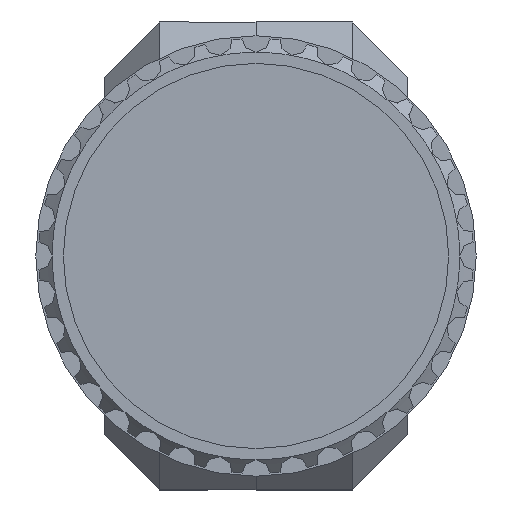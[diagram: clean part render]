
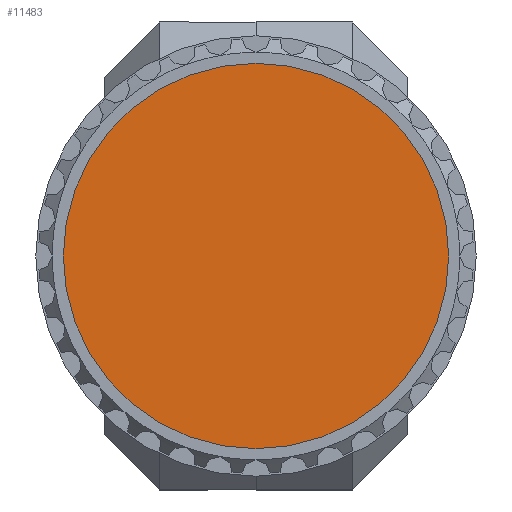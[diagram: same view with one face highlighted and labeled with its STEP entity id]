
A CAD part, front view. The second image highlights one B-rep face of the part: STEP entity #11483.
In plain terms, the highlighted planar face has unit normal (0, -1, 0) as drawn and (0, 0, 1) by its records, which use the part's own axes.
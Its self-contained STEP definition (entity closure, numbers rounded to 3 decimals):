
#1398 = DIRECTION ( 'NONE',  ( 0., 1., 0. ) ) ;
#2014 = EDGE_LOOP ( 'NONE', ( #3104 ) ) ;
#2713 = EDGE_CURVE ( 'NONE', #6189, #6189, #8683, .T. ) ;
#3104 = ORIENTED_EDGE ( 'NONE', *, *, #2713, .F. ) ;
#3863 = DIRECTION ( 'NONE',  ( 0., -1., 0. ) ) ;
#4605 = AXIS2_PLACEMENT_3D ( 'NONE', #11187, #9894, #1398 ) ;
#5185 = AXIS2_PLACEMENT_3D ( 'NONE', #13450, #11385, #3863 ) ;
#6189 = VERTEX_POINT ( 'NONE', #10583 ) ;
#6996 = FACE_OUTER_BOUND ( 'NONE', #2014, .T. ) ;
#8003 = PLANE ( 'NONE',  #5185 ) ;
#8683 = CIRCLE ( 'NONE', #4605, 7. ) ;
#9894 = DIRECTION ( 'NONE',  ( 0., 0., -1. ) ) ;
#10583 = CARTESIAN_POINT ( 'NONE',  ( 0., 7., 5.8 ) ) ;
#11187 = CARTESIAN_POINT ( 'NONE',  ( 0., 0., 5.8 ) ) ;
#11385 = DIRECTION ( 'NONE',  ( 0., 0., 1. ) ) ;
#11483 = ADVANCED_FACE ( 'NONE', ( #6996 ), #8003, .T. ) ;
#13450 = CARTESIAN_POINT ( 'NONE',  ( 0., 0., 5.8 ) ) ;
